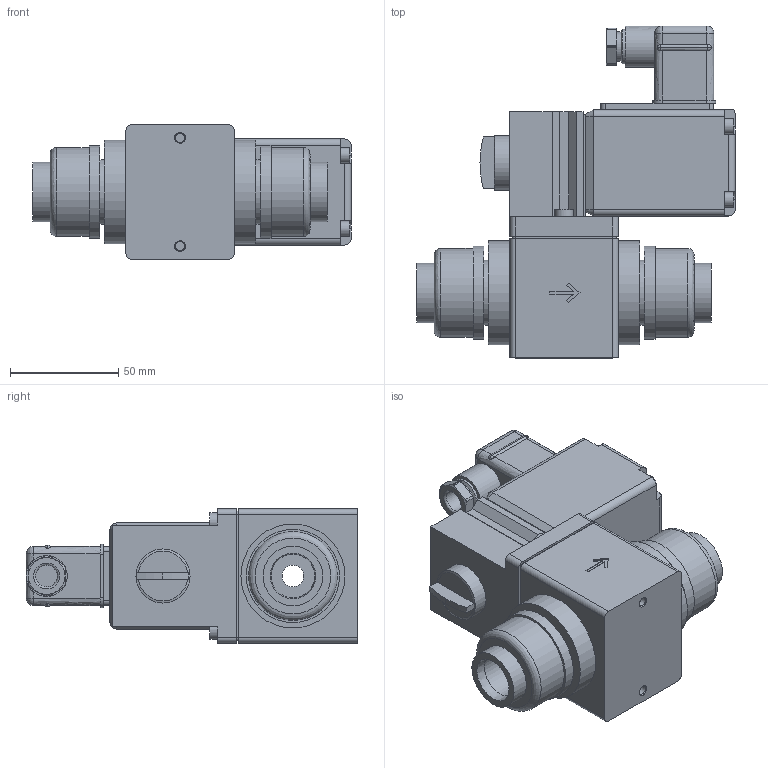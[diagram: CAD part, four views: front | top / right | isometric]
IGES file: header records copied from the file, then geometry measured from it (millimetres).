
Start section: Data from Parasolid IGES Translator 26.0.171, Copyright(c) 2006 Siemens PLM Software. All Rights Reserved.
Global section: file name: 0131-043629-Direct-acting_2_2_or_3_2_way_toggle_valves.igs; native system: By Siemens PLM Incorporated; preprocessor: XPlus GENERIC/IGES 26.0.171; author: Noname; organization: Noname; date: 20241001.101634; units: millimetre
Bounding box: 147 x 153.2 x 62 mm (x, y, z)
Surface area: 69077.1 mm2 (no closed solid volume)
Topology: 0 solids, 0 shells, 247 faces, 1224 edges, 1174 vertices
Faces by surface type: extrusion 131, revolution 116
